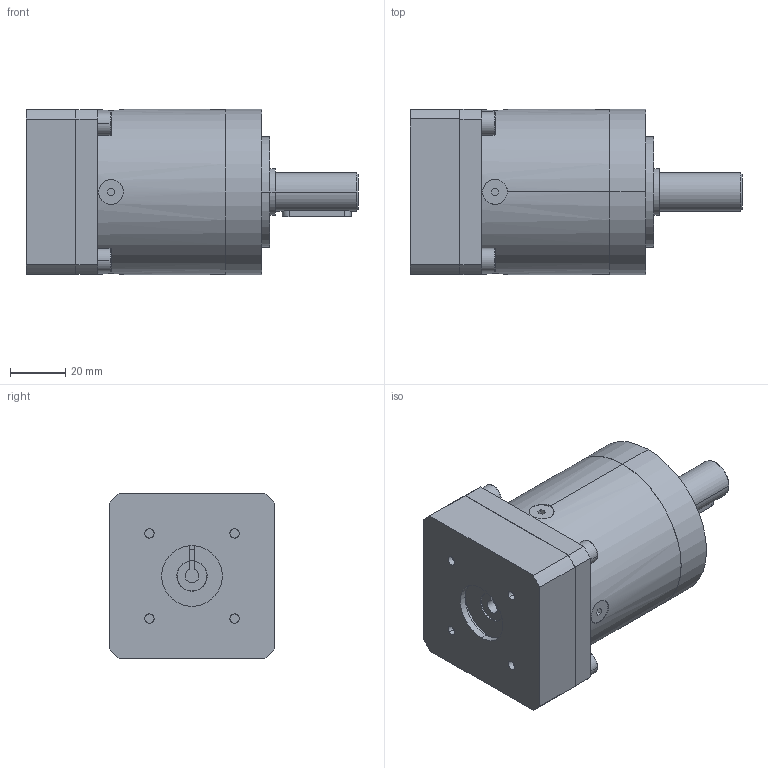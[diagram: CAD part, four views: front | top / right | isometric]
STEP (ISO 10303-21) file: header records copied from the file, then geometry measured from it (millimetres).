
FILE_DESCRIPTION((''),'2;1');
FILE_NAME('1010737931','2020-04-15T',('3258zieb'),(''),'CREO PARAMETRIC BY PTC INC, 2015290','CREO PARAMETRIC BY PTC INC, 2015290','');
FILE_SCHEMA(('CONFIG_CONTROL_DESIGN'));
Length unit declared in the file: millimetre
Products named in the file (1): 1010737931
Bounding box: 120.5 x 60 x 60 mm (x, y, z)
Volume: 259859.4 mm3; surface area: 36758.1 mm2
Topology: 1 solids, 6 shells, 254 faces, 579 edges, 367 vertices
Faces by surface type: plane 136, cylinder 94, torus 14, cone 10
Entity records: 8451 total; most frequent: CARTESIAN_POINT 1418, DIRECTION 1289, ORIENTED_EDGE 1134, EDGE_CURVE 577, AXIS2_PLACEMENT_3D 476, VERTEX_POINT 367, VECTOR 337, LINE 337
